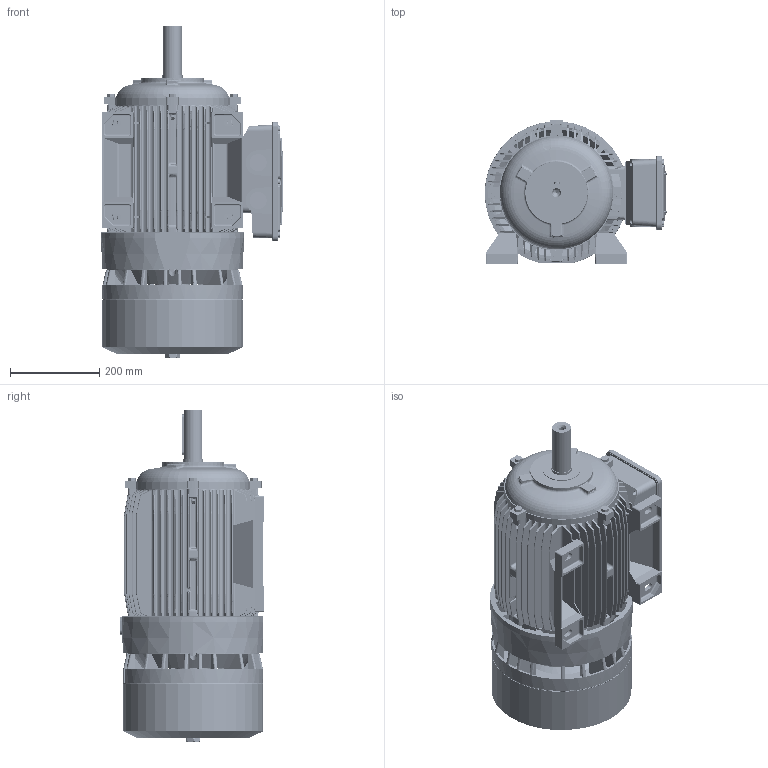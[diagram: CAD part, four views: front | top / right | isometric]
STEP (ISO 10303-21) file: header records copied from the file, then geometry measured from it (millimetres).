
FILE_DESCRIPTION (( 'STEP AP214' ), '1' );
FILE_NAME ('M02KA0010.STEP', '2019-04-16T09:28:56', ( '' ), ( '' ), 'SwSTEP 2.0', 'SolidWorks 2018', '' );
FILE_SCHEMA (( 'AUTOMOTIVE_DESIGN' ));
Length unit declared in the file: millimetre
Products named in the file (17): O-ring Freno BA 160; Chiavetta 160; Scudo Lato Comando B3 160 - D6AB0094; Vite a Testa Esagona 20 MB gr. 132-200 - DGAS0094; Scudo Lato Freno BA 160 P1 - D6A90399; Cuffia serie BA 160; Albero BA 160 M; Carcassa 160 M B3; M02KA0010; Vite a testa esagonale M10x50; Convogliatore con pista di attrito BA 160 P2 -  D6A80199; Scatola Morsettiera Doppia BA 160 - 180 - 200 - Completa; Guarnizione Basetta BA 160-180 - 200 - D6BB0000; Vite Testa Bombata M6x20; Guarnizione Coperchio Sc. Mor. BA 160-180-200 - D6BA0100; Coperchio Scatola Morsettiera Doppia BA 160 - 180 - 200 - D6A60099; Scatola morsettiera 160
Assembly tree (24 placements, depth 3):
  M02KA0010
    Carcassa 160 M B3
    Albero BA 160 M
    Cuffia serie BA 160
    Scudo Lato Freno BA 160 P1 - D6A90399
    Vite a Testa Esagona 20 MB gr. 132-200 - DGAS0094
    Scudo Lato Comando B3 160 - D6AB0094
    Chiavetta 160
    O-ring Freno BA 160
    Scatola Morsettiera Doppia BA 160 - 180 - 200 - Completa
      Scatola morsettiera 160
      Coperchio Scatola Morsettiera Doppia BA 160 - 180 - 200 - D6A60099
      Guarnizione Coperchio Sc. Mor. BA 160-180-200 - D6BA0100
      Vite Testa Bombata M6x20  x6
      Guarnizione Basetta BA 160-180 - 200 - D6BB0000
    Vite a testa esagonale M10x50  x4
    Convogliatore con pista di attrito BA 160 P2 -  D6A80199
Bounding box: 409.49 x 325 x 744.48 mm (x, y, z)
Volume: 9787696 mm3; surface area: 3128050.2 mm2
Topology: 23 solids, 23 shells, 4284 faces, 11751 edges, 7371 vertices
Faces by surface type: cylinder 1704, plane 1029, bspline 647, cone 438, torus 416, sphere 50
Entity records: 207367 total; most frequent: CARTESIAN_POINT 121496, ORIENTED_EDGE 19198, DIRECTION 15253, EDGE_CURVE 9599, VERTEX_POINT 6049, AXIS2_PLACEMENT_3D 5948, EDGE_LOOP 3834, ADVANCED_FACE 3593
